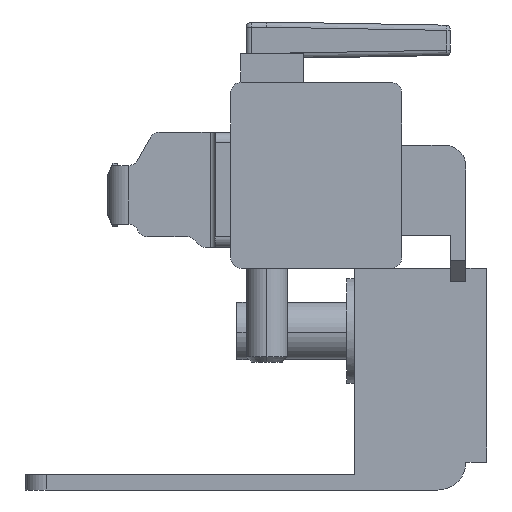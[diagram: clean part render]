
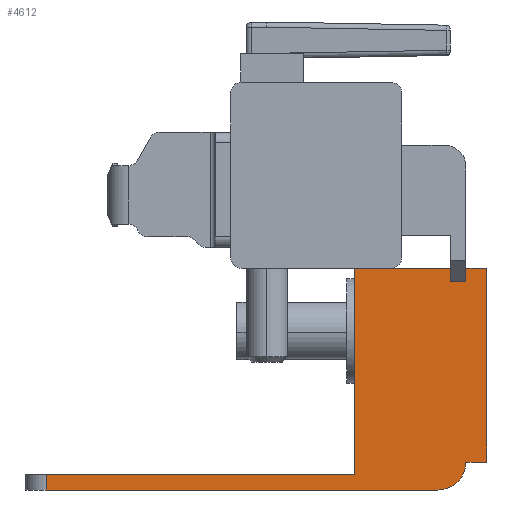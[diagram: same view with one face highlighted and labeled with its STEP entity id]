
A CAD part, left-side view. The second image highlights one B-rep face of the part: STEP entity #4612.
In plain terms, the highlighted planar face has unit normal (-1, 0, 0).
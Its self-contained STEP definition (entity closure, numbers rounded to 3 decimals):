
#27 = VERTEX_POINT ( 'NONE', #5292 ) ;
#52 = ORIENTED_EDGE ( 'NONE', *, *, #4362, .T. ) ;
#116 = DIRECTION ( 'NONE',  ( 0., 0., -1. ) ) ;
#122 = PLANE ( 'NONE',  #2470 ) ;
#377 = ORIENTED_EDGE ( 'NONE', *, *, #4800, .T. ) ;
#384 = DIRECTION ( 'NONE',  ( 0., 1., 0. ) ) ;
#483 = CARTESIAN_POINT ( 'NONE',  ( -218.1, -28.333, 40.749 ) ) ;
#485 = CARTESIAN_POINT ( 'NONE',  ( -218.1, -21.203, 40.749 ) ) ;
#523 = LINE ( 'NONE', #5066, #4963 ) ;
#678 = EDGE_CURVE ( 'NONE', #4979, #1549, #1976, .T. ) ;
#694 = DIRECTION ( 'NONE',  ( 0., 0., 1. ) ) ;
#750 = LINE ( 'NONE', #2109, #4077 ) ;
#910 = DIRECTION ( 'NONE',  ( 0., -1., 0. ) ) ;
#916 = EDGE_CURVE ( 'NONE', #4401, #1966, #3746, .T. ) ;
#1089 = LINE ( 'NONE', #2568, #3269 ) ;
#1090 = ORIENTED_EDGE ( 'NONE', *, *, #3833, .T. ) ;
#1103 = CARTESIAN_POINT ( 'NONE',  ( -218.1, -25.663, 22.219 ) ) ;
#1117 = VERTEX_POINT ( 'NONE', #4398 ) ;
#1139 = CARTESIAN_POINT ( 'NONE',  ( -218.1, -26.863, 40.749 ) ) ;
#1211 = VERTEX_POINT ( 'NONE', #3571 ) ;
#1212 = DIRECTION ( 'NONE',  ( 0., -1., 0. ) ) ;
#1281 = ORIENTED_EDGE ( 'NONE', *, *, #1331, .F. ) ;
#1331 = EDGE_CURVE ( 'NONE', #3401, #4428, #2857, .T. ) ;
#1433 = LINE ( 'NONE', #3162, #4472 ) ;
#1435 = CARTESIAN_POINT ( 'NONE',  ( -218.1, -29.063, 23.319 ) ) ;
#1540 = DIRECTION ( 'NONE',  ( 0., 0., 1. ) ) ;
#1549 = VERTEX_POINT ( 'NONE', #1675 ) ;
#1569 = EDGE_CURVE ( 'NONE', #2004, #2875, #750, .T. ) ;
#1642 = CARTESIAN_POINT ( 'NONE',  ( -218.1, -26.863, 39.459 ) ) ;
#1675 = CARTESIAN_POINT ( 'NONE',  ( -218.1, -28.333, 22.219 ) ) ;
#1819 = VECTOR ( 'NONE', #5471, 1000. ) ;
#1867 = DIRECTION ( 'NONE',  ( 0., 1., 0. ) ) ;
#1938 = VECTOR ( 'NONE', #694, 1000. ) ;
#1966 = VERTEX_POINT ( 'NONE', #485 ) ;
#1976 = LINE ( 'NONE', #2805, #3005 ) ;
#2004 = VERTEX_POINT ( 'NONE', #3136 ) ;
#2094 = EDGE_CURVE ( 'NONE', #3401, #5526, #1089, .T. ) ;
#2109 = CARTESIAN_POINT ( 'NONE',  ( -218.1, -30.333, 40.749 ) ) ;
#2246 = EDGE_CURVE ( 'NONE', #1211, #4525, #3472, .T. ) ;
#2251 = EDGE_CURVE ( 'NONE', #4401, #1117, #1433, .T. ) ;
#2401 = DIRECTION ( 'NONE',  ( 0., 1., 0. ) ) ;
#2446 = VECTOR ( 'NONE', #4644, 1000. ) ;
#2470 = AXIS2_PLACEMENT_3D ( 'NONE', #1435, #4451, #1867 ) ;
#2519 = CARTESIAN_POINT ( 'NONE',  ( -218.1, 11.767, 21.019 ) ) ;
#2568 = CARTESIAN_POINT ( 'NONE',  ( -218.1, 14.667, 19.549 ) ) ;
#2584 = CARTESIAN_POINT ( 'NONE',  ( -218.1, -30.333, 22.219 ) ) ;
#2593 = VECTOR ( 'NONE', #3215, 1000. ) ;
#2666 = DIRECTION ( 'NONE',  ( 0., 0., -1. ) ) ;
#2690 = ORIENTED_EDGE ( 'NONE', *, *, #4888, .F. ) ;
#2763 = EDGE_CURVE ( 'NONE', #1549, #5526, #4506, .T. ) ;
#2805 = CARTESIAN_POINT ( 'NONE',  ( -218.1, -30.333, 22.219 ) ) ;
#2810 = VECTOR ( 'NONE', #2666, 1000. ) ;
#2857 = LINE ( 'NONE', #5582, #5140 ) ;
#2871 = ORIENTED_EDGE ( 'NONE', *, *, #2094, .T. ) ;
#2875 = VERTEX_POINT ( 'NONE', #5055 ) ;
#3005 = VECTOR ( 'NONE', #2401, 1000. ) ;
#3107 = LINE ( 'NONE', #1139, #1938 ) ;
#3136 = CARTESIAN_POINT ( 'NONE',  ( -218.1, -30.333, 40.749 ) ) ;
#3162 = CARTESIAN_POINT ( 'NONE',  ( -218.1, -17.713, 40.749 ) ) ;
#3215 = DIRECTION ( 'NONE',  ( 0., -1., 0. ) ) ;
#3269 = VECTOR ( 'NONE', #910, 1000. ) ;
#3352 = EDGE_CURVE ( 'NONE', #4979, #2004, #5225, .T. ) ;
#3353 = CARTESIAN_POINT ( 'NONE',  ( -218.1, -29.063, 21.019 ) ) ;
#3401 = VERTEX_POINT ( 'NONE', #3645 ) ;
#3472 = LINE ( 'NONE', #1642, #2446 ) ;
#3504 = ORIENTED_EDGE ( 'NONE', *, *, #2246, .T. ) ;
#3534 = CARTESIAN_POINT ( 'NONE',  ( -218.1, -26.863, 39.459 ) ) ;
#3538 = ORIENTED_EDGE ( 'NONE', *, *, #2251, .T. ) ;
#3552 = CARTESIAN_POINT ( 'NONE',  ( -218.1, -17.713, 40.749 ) ) ;
#3571 = CARTESIAN_POINT ( 'NONE',  ( -218.1, -28.333, 39.459 ) ) ;
#3645 = CARTESIAN_POINT ( 'NONE',  ( -218.1, 11.767, 19.549 ) ) ;
#3746 = LINE ( 'NONE', #3552, #2593 ) ;
#3792 = CARTESIAN_POINT ( 'NONE',  ( -218.1, -25.663, 19.549 ) ) ;
#3833 = EDGE_CURVE ( 'NONE', #2875, #1211, #5218, .T. ) ;
#3876 = EDGE_LOOP ( 'NONE', ( #3504, #377, #2690, #4894, #3538, #52, #1281, #2871, #5505, #4126, #4777, #4065, #1090 ) ) ;
#3920 = FACE_OUTER_BOUND ( 'NONE', #3876, .T. ) ;
#4032 = CARTESIAN_POINT ( 'NONE',  ( -218.1, -30.333, 22.219 ) ) ;
#4065 = ORIENTED_EDGE ( 'NONE', *, *, #1569, .T. ) ;
#4077 = VECTOR ( 'NONE', #384, 1000. ) ;
#4126 = ORIENTED_EDGE ( 'NONE', *, *, #678, .F. ) ;
#4132 = DIRECTION ( 'NONE',  ( 1., 0., 0. ) ) ;
#4362 = EDGE_CURVE ( 'NONE', #1117, #4428, #4381, .T. ) ;
#4381 = LINE ( 'NONE', #3353, #1819 ) ;
#4398 = CARTESIAN_POINT ( 'NONE',  ( -218.1, -17.713, 21.019 ) ) ;
#4401 = VERTEX_POINT ( 'NONE', #4613 ) ;
#4428 = VERTEX_POINT ( 'NONE', #2519 ) ;
#4451 = DIRECTION ( 'NONE',  ( 1., 0., 0. ) ) ;
#4462 = DIRECTION ( 'NONE',  ( 0., 0., 1. ) ) ;
#4472 = VECTOR ( 'NONE', #116, 1000. ) ;
#4506 = CIRCLE ( 'NONE', #5046, 2.67 ) ;
#4525 = VERTEX_POINT ( 'NONE', #3534 ) ;
#4612 = ADVANCED_FACE ( 'NONE', ( #3920 ), #122, .F. ) ;
#4613 = CARTESIAN_POINT ( 'NONE',  ( -218.1, -17.713, 40.749 ) ) ;
#4644 = DIRECTION ( 'NONE',  ( 0., 1., 0. ) ) ;
#4777 = ORIENTED_EDGE ( 'NONE', *, *, #3352, .T. ) ;
#4800 = EDGE_CURVE ( 'NONE', #4525, #27, #3107, .T. ) ;
#4888 = EDGE_CURVE ( 'NONE', #1966, #27, #523, .T. ) ;
#4894 = ORIENTED_EDGE ( 'NONE', *, *, #916, .F. ) ;
#4963 = VECTOR ( 'NONE', #1212, 1000. ) ;
#4979 = VERTEX_POINT ( 'NONE', #2584 ) ;
#5046 = AXIS2_PLACEMENT_3D ( 'NONE', #1103, #4132, #1540 ) ;
#5055 = CARTESIAN_POINT ( 'NONE',  ( -218.1, -28.333, 40.749 ) ) ;
#5066 = CARTESIAN_POINT ( 'NONE',  ( -218.1, -17.713, 40.749 ) ) ;
#5091 = VECTOR ( 'NONE', #4462, 1000. ) ;
#5140 = VECTOR ( 'NONE', #5527, 1000. ) ;
#5218 = LINE ( 'NONE', #483, #2810 ) ;
#5225 = LINE ( 'NONE', #4032, #5091 ) ;
#5292 = CARTESIAN_POINT ( 'NONE',  ( -218.1, -26.863, 40.749 ) ) ;
#5471 = DIRECTION ( 'NONE',  ( 0., 1., 0. ) ) ;
#5505 = ORIENTED_EDGE ( 'NONE', *, *, #2763, .F. ) ;
#5526 = VERTEX_POINT ( 'NONE', #3792 ) ;
#5527 = DIRECTION ( 'NONE',  ( 0., 0., 1. ) ) ;
#5582 = CARTESIAN_POINT ( 'NONE',  ( -218.1, 11.767, 21.319 ) ) ;
